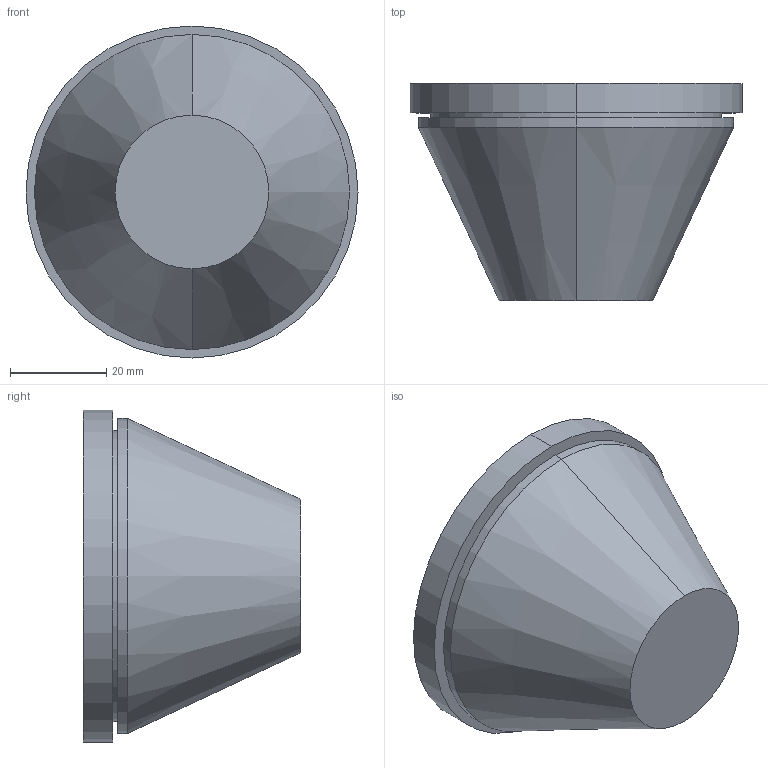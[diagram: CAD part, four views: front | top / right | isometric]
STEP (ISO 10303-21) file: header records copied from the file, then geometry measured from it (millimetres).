
FILE_DESCRIPTION (( 'STEP AP203' ), '1' );
FILE_NAME ('100223.STEP', '2012-10-25T05:05:33', ( 'Joni' ), ( 'Hewlett-Packard Company' ), 'SwSTEP 2.0', 'SolidWorks 2012', '' );
FILE_SCHEMA (( 'CONFIG_CONTROL_DESIGN' ));
Length unit declared in the file: millimetre
Products named in the file (1): 100223
Bounding box: 69 x 45.1 x 69 mm (x, y, z)
Volume: 102154.7 mm3; surface area: 13900.7 mm2
Topology: 1 solids, 1 shells, 12 faces, 22 edges, 14 vertices
Faces by surface type: cylinder 6, plane 4, cone 2
Entity records: 381 total; most frequent: DIRECTION 62, CARTESIAN_POINT 49, ORIENTED_EDGE 44, AXIS2_PLACEMENT_3D 27, EDGE_CURVE 22, VERTEX_POINT 14, EDGE_LOOP 14, CIRCLE 14
